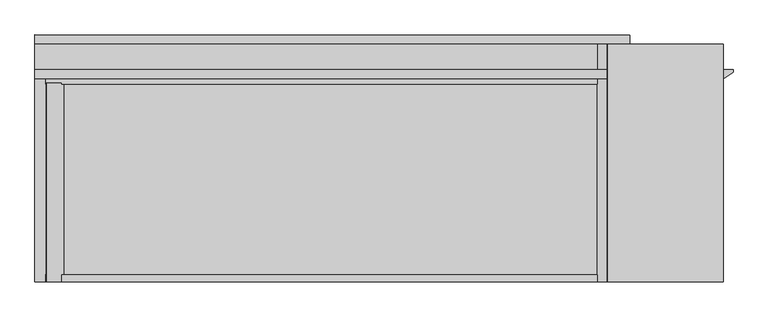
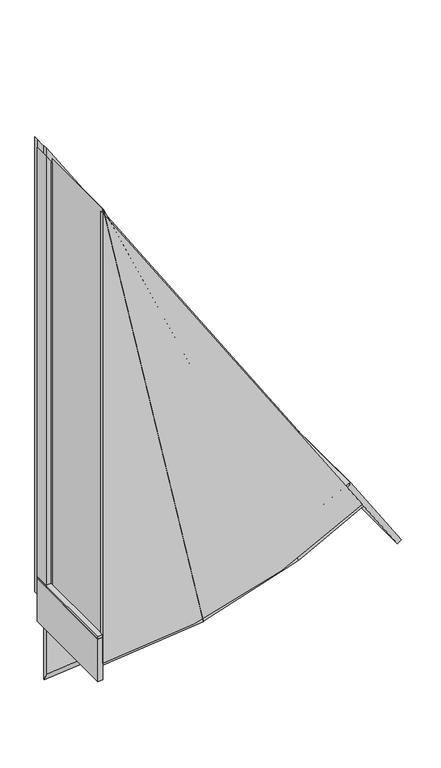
"""IFC4 building model written with IfcOpenShell, lengths in millimetres: proxy geometry, VIEWLINE^TABLE 5_OUT RADIUS TURRET-LT UNIT ASSEMBLY."""

from ifc_helpers import new_model, si_unit, point, frame, frame_2d, origin, place, context, project, spatial, polyline, circle_curve, trimmed, segment, composite_curve, outline, extrude, source, transform, mapped, element, save
from ifc_brep_helpers import plane_surface, cylinder_surface, revolved_surface, advanced_brep


def generic_models_63aa6d09(model_context):
    return source(origin(), model_context, "Body", "SolidModel", [
        extrude(outline(composite_curve([segment(polyline([(458.3714523, 4533.0380356), (3618.4287601, 2476.5), (-151.8909718, 2476.5)]), True, "CONTINUOUS"), segment(trimmed(circle_curve(frame_2d((3746.8228674, 2438.4)), 3898.9), [point((-151.8909718, 2476.5))], [point((458.3714523, 4533.0380356))], False, "CARTESIAN"), True, "CONTINUOUS")], self_intersect=False)), frame((0.0, -831.85, 0.0), z_axis=(0.0, 1.0, 0.0), x_axis=(0.0, 0.0, 1.0)), (0.0, 0.0, 1.0), 25.4),
        extrude(outline(composite_curve([segment(polyline([(-291.7771326, 2438.4), (-291.7771326, 2476.5), (64.0199417, 2476.5)]), True, "CONTINUOUS"), segment(trimmed(circle_curve(frame_2d((3746.8228674, 2438.4)), 3683.0), [point((64.0199417, 2476.5))], [point((63.8228674, 2438.4))], True, "CARTESIAN"), True, "CONTINUOUS"), segment(polyline([(63.8228674, 2438.4), (-291.7771326, 2438.4)]), True, "CONTINUOUS")], self_intersect=False)), frame((0.0, -831.85, 0.0), z_axis=(0.0, 1.0, 0.0), x_axis=(0.0, 0.0, 1.0)), (0.0, 0.0, 1.0), 831.85),
        extrude(outline(polyline([(-61.341, 33.401), (61.3409999, 33.401), (61.3409999, -33.401), (-61.341, -33.401), (-61.341, 33.401)])), frame((2855.4588269, -50.165, -35.4904943), z_axis=(-0.10960126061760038, 0.0, 0.9939756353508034), x_axis=(-0.993975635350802, 0.0, -0.10960126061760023)), (0.0, 0.0, 1.0), 1.5875),
        extrude(outline(polyline([(51.435, 21.59), (51.435, -21.59), (-51.4350001, -21.59), (-51.4350001, 21.59), (51.435, 21.59)])), frame((2855.4588269, -50.165, -35.4904943), z_axis=(-0.10960126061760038, 0.0, 0.9939756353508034), x_axis=(-0.993975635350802, 0.0, -0.10960126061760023)), (0.0, 0.0, 1.0), 74.549),
        extrude(outline(composite_curve([segment(polyline([(3676.9728674, 2438.4), (-56.8271326, 2438.4)]), True, "CONTINUOUS"), segment(trimmed(circle_curve(frame_2d((3746.8228674, 2438.4)), 3803.65), [point((-56.8271326, 2438.4))], [point((538.2082333, 4481.0809472))], False, "CARTESIAN"), True, "CONTINUOUS"), segment(polyline([(538.2082333, 4481.0809472), (3676.9728674, 2438.4)]), True, "CONTINUOUS")], self_intersect=False)), frame((0.0, -120.65, 0.0), z_axis=(0.0, 1.0, 0.0), x_axis=(0.0, 0.0, 1.0)), (0.0, 0.0, 1.0), 120.65),
        extrude(outline(composite_curve([segment(polyline([(3618.4287601, 2476.5), (-151.8909718, 2476.5)]), True, "CONTINUOUS"), segment(trimmed(circle_curve(frame_2d((3746.8228674, 2438.4)), 3898.9), [point((-151.8909718, 2476.5))], [point((458.3714523, 4533.0380356))], False, "CARTESIAN"), True, "CONTINUOUS"), segment(polyline([(458.3714523, 4533.0380356), (3618.4287601, 2476.5)]), True, "CONTINUOUS")], self_intersect=False)), frame((0.0, -139.7, 0.0), z_axis=(0.0, 1.0, 0.0), x_axis=(0.0, 0.0, 1.0)), (0.0, 0.0, 1.0), 19.05),
        extrude(outline(polyline([(0.0, 0.0), (0.0, 425.45), (6.35, 425.45), (103.3342102, 63.5), (203.2, 63.5), (203.2, 0.0), (0.0, 0.0)])), frame((3946.1885979, -120.65, 219.76562), z_axis=(0.913545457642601, 0.0, 0.40673664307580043), x_axis=(0.0, -1.0000000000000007, 0.0)), (0.0, 0.0, 1.0), 57.15),
        extrude(outline(polyline([(-61.341, 33.401), (61.341, 33.401), (61.341, -33.401), (-61.341, -33.401), (-61.341, 33.401)])), frame((3623.5113919, -50.165, 130.8384344), z_axis=(-0.3114421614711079, 0.0, 0.9502651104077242), x_axis=(-0.9502651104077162, 0.0, -0.3114421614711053)), (0.0, 0.0, 1.0), 1.5875),
        extrude(outline(polyline([(51.435, 21.59), (51.435, -21.59), (-51.4350001, -21.59), (-51.4350001, 21.59), (51.435, 21.59)])), frame((3623.5113919, -50.165, 130.8384344), z_axis=(-0.3114421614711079, 0.0, 0.9502651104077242), x_axis=(-0.9502651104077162, 0.0, -0.3114421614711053)), (0.0, 0.0, 1.0), 74.549),
        extrude(outline(composite_curve([segment(polyline([(53.2219157, 4842.1636364), (675.9183298, 4436.9181818), (649.6021736, 4431.3156965)]), True, "CONTINUOUS"), segment(trimmed(circle_curve(frame_2d((3746.8228674, 2438.4)), 3683.0), [point((649.6021736, 4431.3156965))], [point((639.3351128, 4415.2684464))], True, "CARTESIAN"), True, "CONTINUOUS"), segment(polyline([(639.3351128, 4415.2684464), (32.4400975, 4810.2304869), (53.2219157, 4842.1636364)]), True, "CONTINUOUS")], self_intersect=False)), frame((0.0, -831.85, 0.0), z_axis=(0.0, 1.0, 0.0), x_axis=(0.0, 0.0, 1.0)), (0.0, 0.0, 1.0), 831.85),
        advanced_brep(
        [(2438.4, -88.9, 3746.8228674), (2438.4, -88.9, -723.5771326), (2438.4, -98.425, -723.5771326), (2438.4, -120.65, -662.5144469), (2438.4, -120.65, 3746.8228674), (4876.8, -88.9, 0.0), (4843.4930806, -120.65, 51.1791041), (4876.8, -98.425, 0.0)],
        [
            (0, 1),
            (1, 2),
            (2, 3),
            (3, 4),
            (4, 0),
            (0, 5),
            (5, 1, circle_curve(frame((2438.4, -88.9, 3746.8228674), z_axis=(0.0, 1.0, 0.0), x_axis=(0.5454545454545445, 0.0, -0.8381404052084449)), 4470.4)),
            (3, 6, circle_curve(frame((2438.4, -120.65, 3746.8228674), z_axis=(0.0, -1.0, 0.0), x_axis=(0.5454545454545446, 0.0, -0.8381404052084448)), 4409.3373144)),
            (6, 4),
            (2, 7, circle_curve(frame((2438.4, -98.425, 3746.8228674), z_axis=(0.0, -1.0, 0.0), x_axis=(0.5454545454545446, 0.0, -0.8381404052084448)), 4470.4)),
            (7, 6),
            (5, 7),
        ],
        [
            plane_surface(frame((2438.4, -120.65, -723.5771326), z_axis=(-1.0, 0.0, 0.0), x_axis=(0.0, 0.0, 1.0))),
            plane_surface(frame((3657.6, -88.9, -82.3735087), z_axis=(0.0, 1.0, 0.0), x_axis=(0.0, 0.0, 1.0))),
            plane_surface(frame((3657.6, -120.65, -82.3735087), z_axis=(0.0, -1.0, 0.0), x_axis=(0.0, 0.0, 1.0))),
            revolved_surface(polyline([(2438.4, -120.65000000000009, -662.5144469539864), (2438.4, -98.42499999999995, -723.5771326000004)]), (2438.4, -1725.5175353, 3746.8228674), (0.0, 1.0, 0.0)),
            cylinder_surface(frame((2438.4, -120.65, 3746.8228674), z_axis=(0.0, 1.0, 0.0), x_axis=(0.5454545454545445, 0.0, -0.8381404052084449)), 4470.4),
            plane_surface(frame((4513.1181818, -120.65, 558.8301152), z_axis=(0.8381404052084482, 0.0, 0.5454545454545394), x_axis=(0.5454545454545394, 0.0, -0.8381404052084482))),
        ],
        [
            (0, [[1, 2, 3, 4, 5]]),
            (1, [[-1, 6, 7]]),
            (2, [[-4, 8, 9]]),
            (3, [[-3, 10, 11, -8]]),
            (4, [[-10, -2, -7, 12]]),
            (5, [[-11, -12, -6, -5, -9]]),
        ],
    ),
        extrude(outline(polyline([(0.0, 0.0), (0.0, 425.4500001), (6.35, 425.4500001), (103.3342102, 63.5), (203.2, 63.5), (203.2, 0.0), (0.0, 0.0)])), frame((3201.0415703, -120.65, -12.1577801), z_axis=(0.9781476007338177, 0.0, 0.20791169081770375), x_axis=(0.0, -1.0000000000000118, 0.0)), (0.0, 0.0, 1.0), 57.15),
        extrude(outline(composite_curve([segment(polyline([(649.6021736, 4431.3156965), (675.9183298, 4436.9181818)]), True, "CONTINUOUS"), segment(trimmed(circle_curve(frame_2d((3746.8228674, 2438.4)), 3663.95), [point((675.9183298, 4436.9181818))], [point((82.8728674, 2438.4))], True, "CARTESIAN"), True, "CONTINUOUS"), segment(polyline([(82.8728674, 2438.4), (63.8228674, 2438.4)]), True, "CONTINUOUS"), segment(trimmed(circle_curve(frame_2d((3746.8228674, 2438.4)), 3683.0), [point((63.8228674, 2438.4))], [point((649.6021736, 4431.3156965))], False, "CARTESIAN"), True, "CONTINUOUS")], self_intersect=False)), frame((0.0, -831.85, 0.0), z_axis=(0.0, 1.0, 0.0), x_axis=(0.0, 0.0, 1.0)), (0.0, 0.0, 1.0), 831.85),
        extrude(outline(composite_curve([segment(polyline([(441.5514189, 4542.0902942), (3516.4705018, 2540.9594809), (167.5974417, 4031.9738307)]), True, "CONTINUOUS"), segment(trimmed(circle_curve(frame_2d((3746.8228674, 2438.4)), 3917.95), [point((167.5974417, 4031.9738307))], [point((441.5514189, 4542.0902942))], False, "CARTESIAN"), True, "CONTINUOUS")], self_intersect=False)), frame((0.0, -831.85, 0.0), z_axis=(0.0, 1.0, 0.0), x_axis=(0.0, 0.0, 1.0)), (0.0, 0.0, 1.0), 695.325),
        extrude(outline(polyline([(-61.341, 33.401), (61.341, 33.401), (61.341, -33.401), (-61.341, -33.401), (-61.341, 33.401)])), frame((4247.5422069, -50.165, 399.1614588), z_axis=(-0.47543476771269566, 0.0, 0.8797509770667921), x_axis=(-0.8797509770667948, 0.0, -0.47543476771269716)), (0.0, 0.0, 1.0), 1.5875),
        extrude(outline(polyline([(51.435, 21.59), (51.435, -21.59), (-51.435, -21.59), (-51.435, 21.59), (51.435, 21.59)])), frame((4247.5422069, -50.165, 399.1614588), z_axis=(-0.47543476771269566, 0.0, 0.8797509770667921), x_axis=(-0.8797509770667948, 0.0, -0.47543476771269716)), (0.0, 0.0, 1.0), 74.549),
        extrude(outline(composite_curve([segment(polyline([(3648.6749296, 2480.3605422), (-81.1665815, 3273.1628294)]), True, "CONTINUOUS"), segment(trimmed(circle_curve(frame_2d((3746.8228674, 2438.4)), 3917.95), [point((-81.1665815, 3273.1628294))], [point((166.9520411, 4030.5234465))], False, "CARTESIAN"), True, "CONTINUOUS"), segment(polyline([(166.9520411, 4030.5234465), (3648.6749296, 2480.3605422)]), True, "CONTINUOUS")], self_intersect=False)), frame((0.0, -831.85, 0.0), z_axis=(0.0, 1.0, 0.0), x_axis=(0.0, 0.0, 1.0)), (0.0, 0.0, 1.0), 695.325),
        extrude(outline(composite_curve([segment(polyline([(553.5079236, 4516.5818182), (3746.8228674, 2438.4), (-63.1771326, 2438.4)]), True, "CONTINUOUS"), segment(trimmed(circle_curve(frame_2d((3746.8228674, 2438.4)), 3810.0), [point((-63.1771326, 2438.4))], [point((553.5079236, 4516.5818182))], False, "CARTESIAN"), True, "CONTINUOUS")], self_intersect=False)), frame((0.0, 0.0, 0.0), z_axis=(0.0, 1.0, 0.0), x_axis=(0.0, 0.0, 1.0)), (0.0, 0.0, 1.0), 31.75),
        extrude(outline(composite_curve([segment(polyline([(-81.5045061, 3271.6116918), (3651.7332992, 2478.0875), (-170.926117, 2478.0875)]), True, "CONTINUOUS"), segment(trimmed(circle_curve(frame_2d((3746.8228674, 2438.4)), 3917.95), [point((-170.926117, 2478.0875))], [point((-81.5045061, 3271.6116918))], False, "CARTESIAN"), True, "CONTINUOUS")], self_intersect=False)), frame((0.0, -831.85, 0.0), z_axis=(0.0, 1.0, 0.0), x_axis=(0.0, 0.0, 1.0)), (0.0, 0.0, 1.0), 695.325),
    ])


if __name__ == "__main__":
    model = new_model("IFC4")
    model_context = context("Model", 3, world=origin())
    ifc_project = project(units=[si_unit("LENGTHUNIT", "METRE", prefix="MILLI")], contexts=[model_context])
    site = spatial("IfcSite", under=ifc_project)
    building = spatial("IfcBuilding", under=site)
    placement = place(None, origin())
    generic_models_shape = generic_models_63aa6d09(model_context)
    element("IfcBuildingElementProxy", 1, Name="VIEWLINE^TABLE 5_OUT RADIUS TURRET-LT UNIT ASSEMBLY", ObjectType="VIEWLINE^TABLE 5_OUT RADIUS TURRET-LT UNIT ASSEMBLY", at=placement, inside=building, context=model_context, shape_type="MappedRepresentation", body=[
        mapped(generic_models_shape, transform((0.0, 0.0, 0.0), x_axis=(1.0, 0.0, 0.0), y_axis=(0.0, 1.0, 0.0), z_axis=(0.0, 0.0, 1.0))),
    ])
    save(model, "model.ifc")
